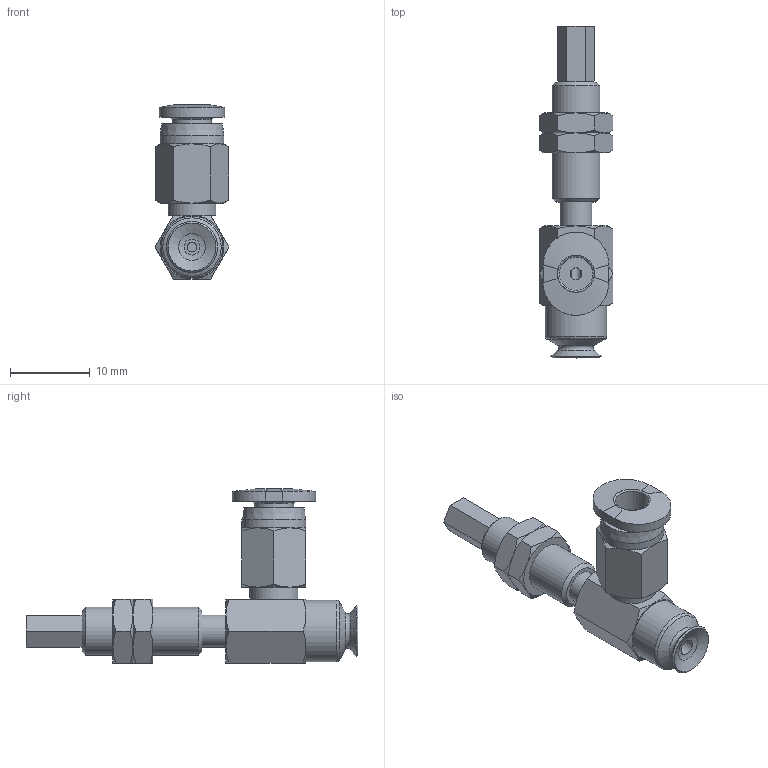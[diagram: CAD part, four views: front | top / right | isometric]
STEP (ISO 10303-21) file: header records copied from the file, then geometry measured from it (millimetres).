
FILE_DESCRIPTION(('STEP AP203'),'1');
FILE_NAME('-O.stp','2025-04-09T05:38:19',(' '),(' '),'Spatial InterOp 3D',' ',' ');
FILE_SCHEMA(('CONFIG_CONTROL_DESIGN'));
Length unit declared in the file: millimetre
Products named in the file (7): BNABPFYS-6A-3-※-O; CONNECTOR-6A-3; Nut-6A-3-s; NAPFTS-6A-3-FBODY; NAPFTS-6A-3-MBODY; BPFG-6A-※; PC-C_04-M3
Assembly tree (7 placements, depth 2):
  BNABPFYS-6A-3-※-O
    CONNECTOR-6A-3
    Nut-6A-3-s  x2
    NAPFTS-6A-3-FBODY
    NAPFTS-6A-3-MBODY
    BPFG-6A-※
    PC-C_04-M3
Bounding box: 9.24 x 41.5 x 21.77 mm (x, y, z)
Volume: 1445 mm3; surface area: 2932.1 mm2
Topology: 6 solids, 8 shells, 182 faces, 380 edges, 227 vertices
Faces by surface type: plane 73, cone 68, cylinder 24, torus 9, bspline 5, revolution 3
Full cylindrical faces by diameter (mm): 1.2 x1, 2 x1, 2.459 x2, 2.5 x2, 3 x2, 4 x4, 4.9 x1, 5.188 x2, 6 x4, 6.1 x1, 7.7 x1, 8 x1
Entity records: 4655 total; most frequent: CARTESIAN_POINT 1274, DIRECTION 631, ORIENTED_EDGE 546, AXIS2_PLACEMENT_3D 277, EDGE_CURVE 274, EDGE_LOOP 232, VERTEX_POINT 190, FACE_OUTER_BOUND 130
